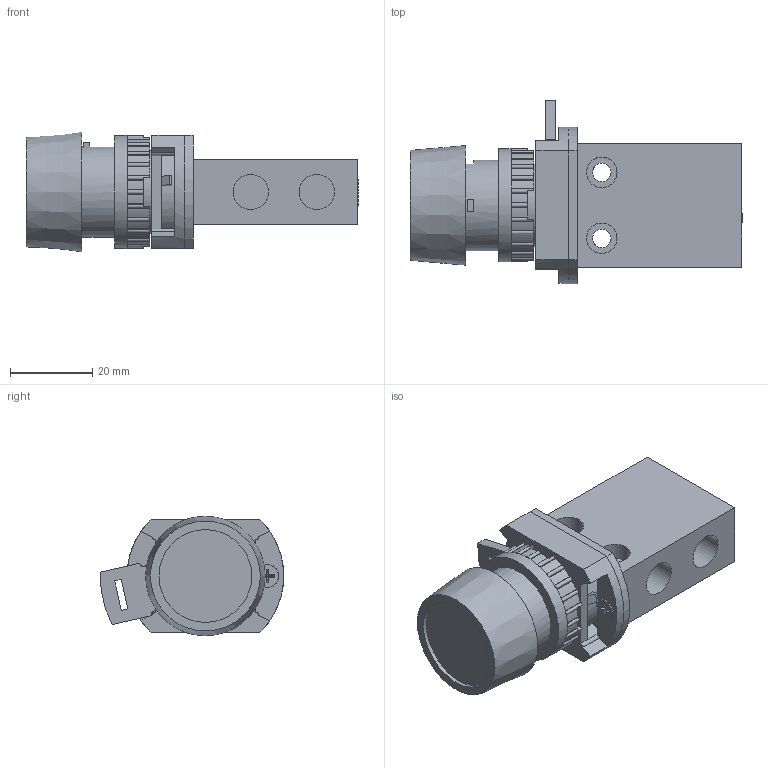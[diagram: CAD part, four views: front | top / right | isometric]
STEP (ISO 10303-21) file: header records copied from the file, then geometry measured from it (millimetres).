
FILE_DESCRIPTION (( 'STEP AP214' ), '1' );
FILE_NAME ('18-T-23-011---T-28-311_Airtec.step', '2018-11-15T13:09:34', ( '' ), ( '' ), 'SwSTEP 2.0', 'SolidWorks 2010', '' );
FILE_SCHEMA (( 'AUTOMOTIVE_DESIGN' ));
Length unit declared in the file: millimetre
Products named in the file (3): 18-T-23-011-Airtec; T-28-311_161115; 18-T-23-011---T-28-311_Airtec
Assembly tree (2 placements, depth 2):
  18-T-23-011---T-28-311_Airtec
    T-28-311_161115
    18-T-23-011-Airtec
Bounding box: 80.5 x 44.48 x 29 mm (x, y, z)
Volume: 39484 mm3; surface area: 15361.9 mm2
Topology: 2 solids, 2 shells, 426 faces, 1134 edges, 733 vertices
Faces by surface type: plane 205, cylinder 157, cone 47, torus 17
Full cylindrical faces by diameter (mm): 2.013 x1, 2.459 x4, 2.693 x2, 3 x1, 3.2 x2, 4.5 x2, 4.7 x1, 5.5 x3, 5.7 x2, 6 x1, 7.4 x4, 8.566 x3, 10 x1, 10.5 x1, 16 x1, 20 x1, 20.3 x1, 22 x1, 22.5 x1, 27.4 x1
Entity records: 13488 total; most frequent: CARTESIAN_POINT 2868, DIRECTION 2310, ORIENTED_EDGE 2124, EDGE_CURVE 1062, AXIS2_PLACEMENT_3D 915, VERTEX_POINT 715, EDGE_LOOP 515, CIRCLE 484
